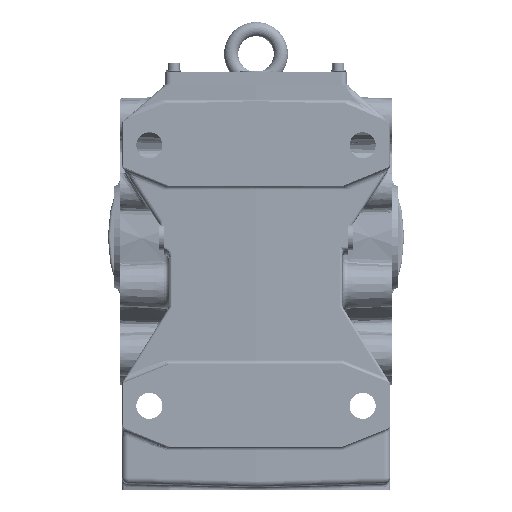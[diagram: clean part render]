
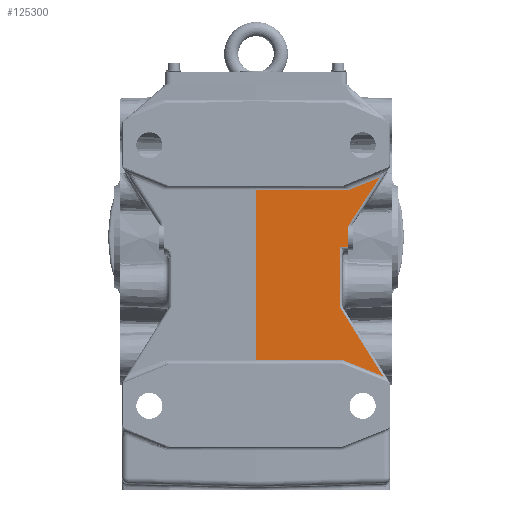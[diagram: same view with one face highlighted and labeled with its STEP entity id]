
A CAD part, left-side view. The second image highlights one B-rep face of the part: STEP entity #125300.
In plain terms, the highlighted planar face has unit normal (-1, -0.026, 0).
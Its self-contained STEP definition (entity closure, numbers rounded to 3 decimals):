
#64872=CARTESIAN_POINT('',(-128.064,-70.565,-46.049));
#64873=VERTEX_POINT('',#64872);
#64898=CARTESIAN_POINT('',(-128.064,-70.565,-8.048));
#64899=VERTEX_POINT('',#64898);
#64909=CARTESIAN_POINT('',(-128.064,-70.565,-8.048));
#64910=DIRECTION('',(0.0,0.0,-1.0));
#64911=VECTOR('',#64910,38.001);
#64912=LINE('',#64909,#64911);
#64913=EDGE_CURVE('',#64899,#64873,#64912,.T.);
#64955=CARTESIAN_POINT('',(-127.177,-104.418,50.274));
#64956=VERTEX_POINT('',#64955);
#64964=CARTESIAN_POINT('',(-127.854,-78.565,10.465));
#64965=VERTEX_POINT('',#64964);
#64966=CARTESIAN_POINT('',(-127.177,-104.418,50.274));
#64967=DIRECTION('',(-0.014,0.545,-0.839));
#64968=VECTOR('',#64967,47.472);
#64969=LINE('',#64966,#64968);
#64970=EDGE_CURVE('',#64956,#64965,#64969,.T.);
#65311=CARTESIAN_POINT('',(-127.85,-78.733,40.));
#65312=VERTEX_POINT('',#65311);
#65326=CARTESIAN_POINT('',(-127.85,-78.733,40.));
#65327=DIRECTION('',(0.024,-0.928,0.371));
#65328=VECTOR('',#65327,27.672);
#65329=LINE('',#65326,#65328);
#65330=EDGE_CURVE('',#65312,#64956,#65329,.T.);
#71455=CARTESIAN_POINT('',(-129.912,0.,40.));
#71456=VERTEX_POINT('',#71455);
#71464=CARTESIAN_POINT('',(-129.912,0.,40.));
#71465=DIRECTION('',(0.026,-1.,0.));
#71466=VECTOR('',#71465,78.76);
#71467=LINE('',#71464,#71466);
#71468=EDGE_CURVE('',#71456,#65312,#71467,.T.);
#85297=CARTESIAN_POINT('',(-127.987,-73.499,-104.));
#85298=VERTEX_POINT('',#85297);
#85306=CARTESIAN_POINT('',(-129.912,0.,-104.));
#85307=VERTEX_POINT('',#85306);
#85308=CARTESIAN_POINT('',(-127.987,-73.499,-104.));
#85309=DIRECTION('',(-0.026,1.,0.));
#85310=VECTOR('',#85309,73.524);
#85311=LINE('',#85308,#85310);
#85312=EDGE_CURVE('',#85298,#85307,#85311,.T.);
#85471=CARTESIAN_POINT('',(-127.103,-107.26,-117.504));
#85472=VERTEX_POINT('',#85471);
#85480=CARTESIAN_POINT('',(-127.103,-107.26,-117.504));
#85481=DIRECTION('',(-0.024,0.928,0.371));
#85482=VECTOR('',#85481,36.372);
#85483=LINE('',#85480,#85482);
#85484=EDGE_CURVE('',#85472,#85298,#85483,.T.);
#85668=CARTESIAN_POINT('',(-128.024,-72.087,-61.215));
#85669=VERTEX_POINT('',#85668);
#85677=CARTESIAN_POINT('',(-128.024,-72.087,-61.215));
#85678=DIRECTION('',(0.014,-0.53,-0.848));
#85679=VECTOR('',#85678,66.381);
#85680=LINE('',#85677,#85679);
#85681=EDGE_CURVE('',#85669,#85472,#85680,.T.);
#85754=CARTESIAN_POINT('',(-128.064,-70.565,-46.049));
#85755=CARTESIAN_POINT('',(-128.064,-70.566,-46.058));
#85756=CARTESIAN_POINT('',(-128.064,-70.566,-46.068));
#85757=CARTESIAN_POINT('',(-128.063,-70.588,-47.1));
#85758=CARTESIAN_POINT('',(-128.062,-70.632,-49.146));
#85759=CARTESIAN_POINT('',(-128.06,-70.692,-51.703));
#85760=CARTESIAN_POINT('',(-128.059,-70.752,-53.749));
#85761=CARTESIAN_POINT('',(-128.057,-70.805,-55.283));
#85762=CARTESIAN_POINT('',(-128.055,-70.883,-56.815));
#85763=CARTESIAN_POINT('',(-128.052,-71.009,-58.347));
#85764=CARTESIAN_POINT('',(-128.043,-71.364,-59.847));
#85765=CARTESIAN_POINT('',(-128.031,-71.815,-60.781));
#85766=CARTESIAN_POINT('',(-128.024,-72.087,-61.215));
#85767=B_SPLINE_CURVE_WITH_KNOTS('',3,(#85754,#85755,#85756,#85757,#85758,#85759,#85760,#85761,#85762,#85763,#85764,#85765,#85766),.UNSPECIFIED.,.F.,.U.,(4,2,1,1,1,1,1,1,1,4),(-0.003,0.0,0.307,0.614,0.767,0.921,1.074,1.228,1.381,1.535),.UNSPECIFIED.);
#85768=EDGE_CURVE('',#64873,#85669,#85767,.T.);
#125231=CARTESIAN_POINT('',(-127.854,-78.565,9.191));
#125232=VERTEX_POINT('',#125231);
#125245=CARTESIAN_POINT('',(-127.854,-78.565,10.465));
#125246=DIRECTION('',(0.0,0.0,-1.0));
#125247=VECTOR('',#125246,1.274);
#125248=LINE('',#125245,#125247);
#125249=EDGE_CURVE('',#64965,#125232,#125248,.T.);
#125254=CARTESIAN_POINT('',(-129.911,-0.025,-208.));
#125255=DIRECTION('',(-1.,-0.026,0.));
#125256=DIRECTION('',(0.0,0.0,1.0));
#125257=AXIS2_PLACEMENT_3D('',#125254,#125255,#125256);
#125258=PLANE('',#125257);
#125259=CARTESIAN_POINT('',(-127.869,-78.,-8.274));
#125260=VERTEX_POINT('',#125259);
#125261=CARTESIAN_POINT('',(-127.869,-78.,9.172));
#125262=VERTEX_POINT('',#125261);
#125263=CARTESIAN_POINT('',(-127.869,-78.,-8.274));
#125264=DIRECTION('',(0.0,0.0,1.0));
#125265=VECTOR('',#125264,17.446);
#125266=LINE('',#125263,#125265);
#125267=EDGE_CURVE('',#125260,#125262,#125266,.T.);
#125268=ORIENTED_EDGE('',*,*,#125267,.T.);
#125269=CARTESIAN_POINT('',(-116.,-531.262,0.));
#125270=DIRECTION('',(1.,0.026,0.));
#125271=DIRECTION('',(-0.026,1.,0.));
#125272=AXIS2_PLACEMENT_3D('',#125269,#125270,#125271);
#125273=ELLIPSE('',#125272,573.023,15.);
#125274=EDGE_CURVE('',#125262,#125232,#125273,.T.);
#125275=ORIENTED_EDGE('',*,*,#125274,.T.);
#125276=ORIENTED_EDGE('',*,*,#125249,.F.);
#125277=ORIENTED_EDGE('',*,*,#64970,.F.);
#125278=ORIENTED_EDGE('',*,*,#65330,.F.);
#125279=ORIENTED_EDGE('',*,*,#71468,.F.);
#125280=CARTESIAN_POINT('',(-129.912,0.,40.));
#125281=DIRECTION('',(0.0,0.0,-1.0));
#125282=VECTOR('',#125281,144.0);
#125283=LINE('',#125280,#125282);
#125284=EDGE_CURVE('',#71456,#85307,#125283,.T.);
#125285=ORIENTED_EDGE('',*,*,#125284,.T.);
#125286=ORIENTED_EDGE('',*,*,#85312,.F.);
#125287=ORIENTED_EDGE('',*,*,#85484,.F.);
#125288=ORIENTED_EDGE('',*,*,#85681,.F.);
#125289=ORIENTED_EDGE('',*,*,#85768,.F.);
#125290=ORIENTED_EDGE('',*,*,#64913,.F.);
#125291=CARTESIAN_POINT('',(-118.499,-435.823,0.));
#125292=DIRECTION('',(1.,0.026,0.));
#125293=DIRECTION('',(-0.026,1.,0.));
#125294=AXIS2_PLACEMENT_3D('',#125291,#125292,#125293);
#125295=ELLIPSE('',#125294,477.519,12.5);
#125296=EDGE_CURVE('',#125260,#64899,#125295,.T.);
#125297=ORIENTED_EDGE('',*,*,#125296,.F.);
#125298=EDGE_LOOP('',(#125268,#125275,#125276,#125277,#125278,#125279,#125285,#125286,#125287,#125288,#125289,#125290,#125297));
#125299=FACE_OUTER_BOUND('',#125298,.T.);
#125300=ADVANCED_FACE('',(#125299),#125258,.T.);
